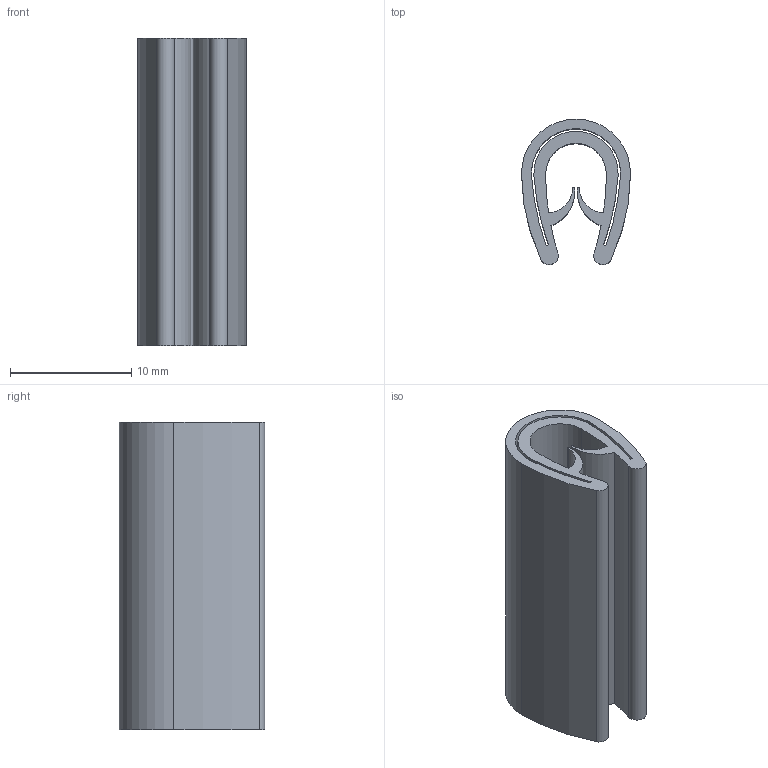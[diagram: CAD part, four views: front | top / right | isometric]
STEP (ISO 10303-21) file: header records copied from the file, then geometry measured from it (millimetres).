
FILE_DESCRIPTION((''),'2;1');
FILE_NAME('C:\Documents and Settings\Administrator\My Documents\Andys Backup Data\STEP LIBRARIES\MINITEC STEP LIBRARIES\EDGE COVER SLIDE AND SEALING PROFILES\22.1036 EDGE PROTECTION 1 - 3.stp','2008-10-24T07:07:14',('Administrator'),(''),'Autodesk Inventor 2009','Autodesk Inventor 2009','');
FILE_SCHEMA(('AUTOMOTIVE_DESIGN { 1 0 10303 214 1 1 1 1 }'));
Length unit declared in the file: inch
Products named in the file (1): 22.1036 EDGE PROTECTION 1 - 3
Bounding box: 9 x 12 x 25.4 mm (x, y, z)
Volume: 1229 mm3; surface area: 2994.7 mm2
Topology: 1 solids, 1 shells, 26 faces, 72 edges, 48 vertices
Faces by surface type: cylinder 22, plane 4
Entity records: 892 total; most frequent: DIRECTION 170, CARTESIAN_POINT 147, ORIENTED_EDGE 144, EDGE_CURVE 72, AXIS2_PLACEMENT_3D 71, VERTEX_POINT 48, CIRCLE 44, VECTOR 28
